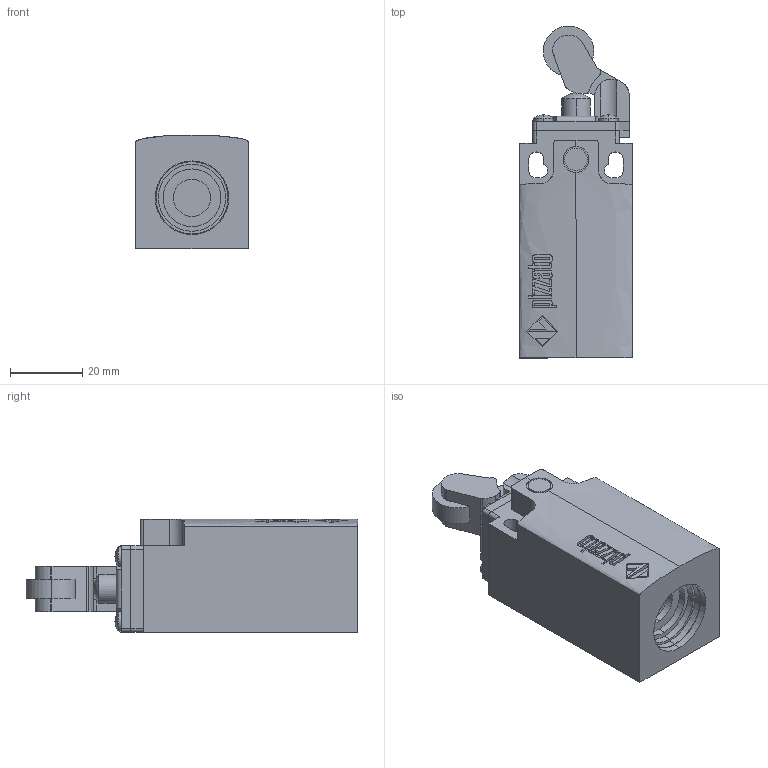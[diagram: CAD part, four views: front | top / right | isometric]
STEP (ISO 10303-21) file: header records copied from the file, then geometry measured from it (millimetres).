
FILE_DESCRIPTION (( 'STEP AP203' ), '1' );
FILE_NAME ('ZF_STEP_FR_x02.STEP', '2024-02-26T08:50:25', ( '' ), ( '' ), 'SwSTEP 2.0', 'SolidWorks 2023', '' );
FILE_SCHEMA (( 'CONFIG_CONTROL_DESIGN' ));
Length unit declared in the file: millimetre
Products named in the file (7): Pizzato_Custodia_FR_3dweb; ZF_STEP_FR_x02; PIzzato_Leva_TE02_3407; Pizzato_Pulsante_TE01; Pizzato_Supporto_TE02; ZF_STEP_VF_TE02
Assembly tree (6 placements, depth 3):
  ZF_STEP_FR_x02
    Pizzato_Custodia_FR_3dweb
      Pizzato_Custodia_FR_3dweb
    ZF_STEP_VF_TE02
      Pizzato_Supporto_TE02
      PIzzato_Leva_TE02_3407
      Pizzato_Pulsante_TE01
Bounding box: 31.2 x 92.04 x 31.6 mm (x, y, z)
Volume: 60166.6 mm3; surface area: 16173.2 mm2
Topology: 4 solids, 4 shells, 467 faces, 1237 edges, 821 vertices
Faces by surface type: plane 261, bspline 114, cylinder 82, sphere 10
Entity records: 19098 total; most frequent: CARTESIAN_POINT 7536, ORIENTED_EDGE 2474, DIRECTION 1839, EDGE_CURVE 1237, VERTEX_POINT 821, LINE 771, VECTOR 771, AXIS2_PLACEMENT_3D 534
